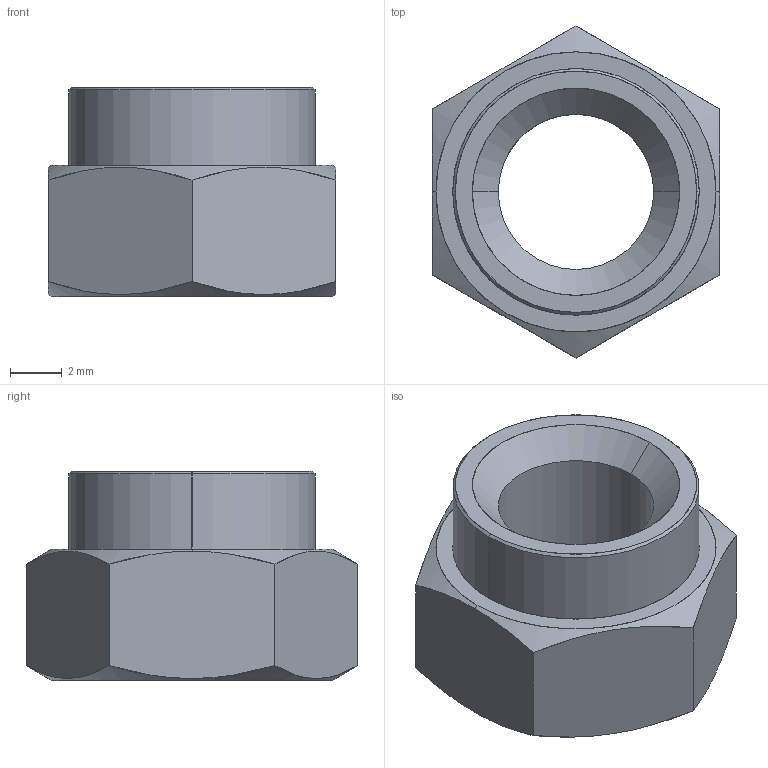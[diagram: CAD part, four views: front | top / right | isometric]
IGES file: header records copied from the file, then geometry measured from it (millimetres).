
Start section: SolidWorks IGES file using analytic representation for surfaces
Global section: file name: C:\Users\liam_\OneDrive\Desktop\Work\Mat Davis Pending 20181125\automotion\P SERIES\P0827.ZP_v2\P0827.ZP_v2_20181231_IGES\P0827.060-12G-ZP.igs; native system: SolidWorks 2017; preprocessor: SolidWorks 2017; author: liam_; date: 181231.110757; units: millimetre
Bounding box: 11.1 x 12.82 x 8.08 mm (x, y, z)
Surface area: 558.2 mm2 (no closed solid volume)
Topology: 0 solids, 0 shells, 23 faces, 400 edges, 400 vertices
Faces by surface type: revolution 14, bspline 9
